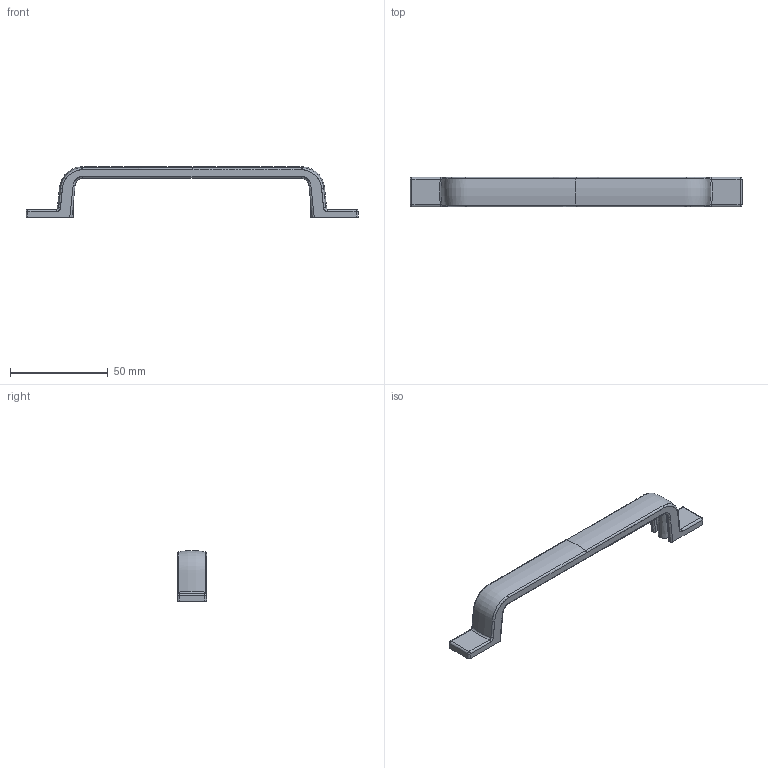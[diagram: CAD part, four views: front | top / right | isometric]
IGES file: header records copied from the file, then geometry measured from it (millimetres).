
Start section: C
Global section: file name: 8325.igs; native system: By Siemens PLM Incorporated; preprocessor: XPlus GENERIC/IGES 16.0.42; author: Author; organization: Title; date: 20210505.113821; units: millimetre
Bounding box: 170 x 15 x 25.94 mm (x, y, z)
Surface area: 9144.9 mm2 (no closed solid volume)
Topology: 0 solids, 0 shells, 145 faces, 2478 edges, 2462 vertices
Faces by surface type: bspline 145
